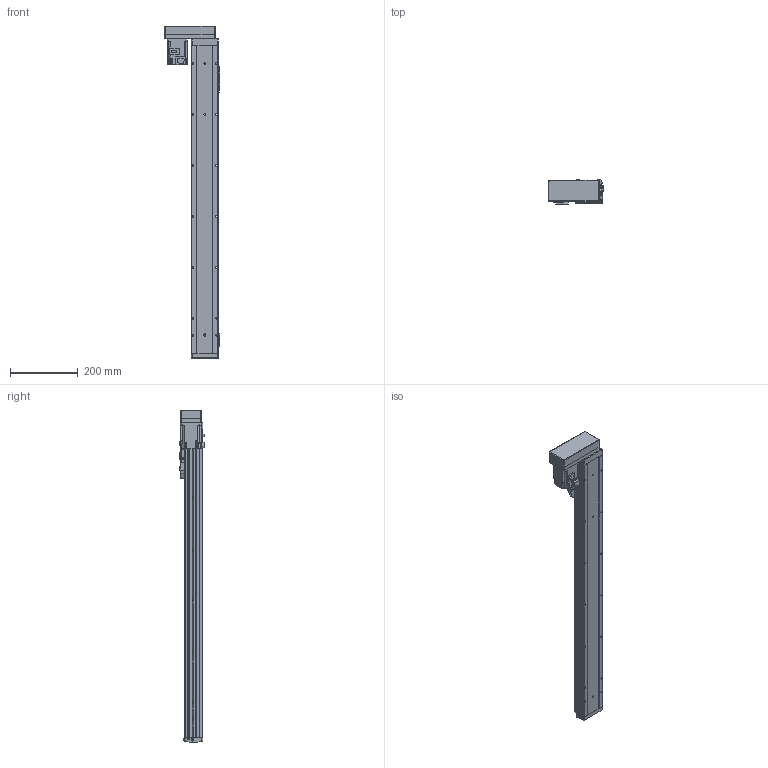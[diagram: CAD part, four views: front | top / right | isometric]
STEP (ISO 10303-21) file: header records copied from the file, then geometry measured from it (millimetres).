
FILE_DESCRIPTION (( 'STEP AP214' ), '1' );
FILE_NAME ('GSH8-750-BR-M20-1.step', '2025-01-07T06:10:57', ( '' ), ( '' ), 'SwSTEP 2.0', 'SolidWorks 2012', '' );
FILE_SCHEMA (( 'AUTOMOTIVE_DESIGN' ));
Length unit declared in the file: millimetre
Products named in the file (5): GSH8-750-BR-M20-1; HG-KR23_200W_Motor; GSH8-BL-008; GSH8-BL-011-750-M20; GSH8-GY-004
Assembly tree (4 placements, depth 2):
  GSH8-750-BR-M20-1
    GSH8-BL-011-750-M20
    GSH8-GY-004
    GSH8-BL-008
    HG-KR23_200W_Motor
Bounding box: 163 x 71.3 x 978.2 mm (x, y, z)
Volume: 2315965.9 mm3; surface area: 587261.9 mm2
Topology: 4 solids, 8 shells, 1142 faces, 3002 edges, 1933 vertices
Faces by surface type: plane 642, cylinder 404, torus 42, cone 26, bspline 24, sphere 4
Entity records: 44586 total; most frequent: CARTESIAN_POINT 10026, DIRECTION 6098, ORIENTED_EDGE 5988, EDGE_CURVE 2994, AXIS2_PLACEMENT_3D 2057, LINE 1984, VECTOR 1984, VERTEX_POINT 1929
